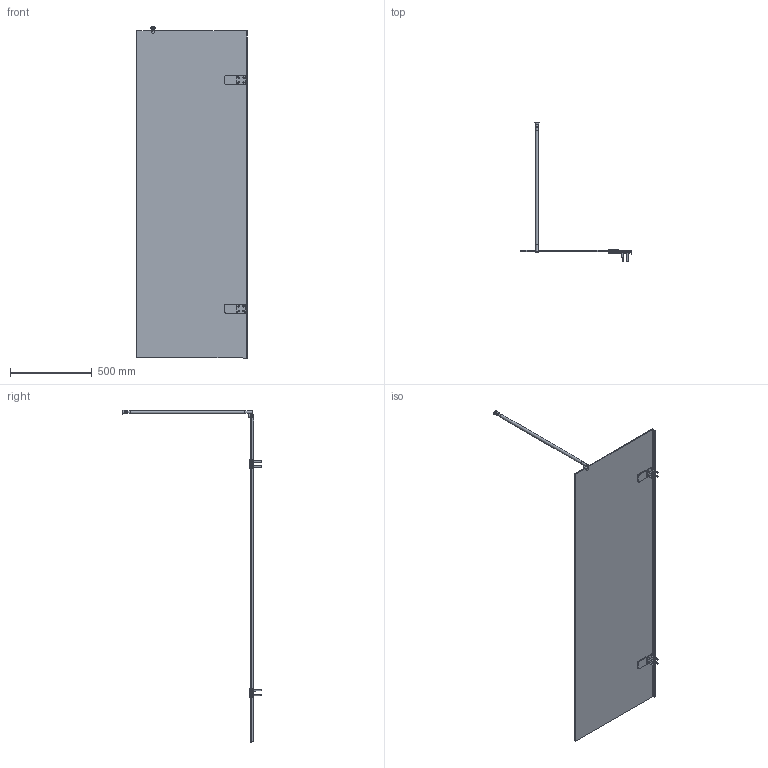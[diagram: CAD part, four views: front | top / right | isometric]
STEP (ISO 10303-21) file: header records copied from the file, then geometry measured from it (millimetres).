
FILE_DESCRIPTION(/* description */ (''),/* implementation_level */ '2;1');
FILE_NAME(/* name */ 'E:\Работа\Сергей\Душевые кабинки\! Работа\!! 33\! В работе\TREND DOOR GK-861NAITL-2722\TREND DOOR GK-861NAITL-2722 правая модель\TREND DOOR GK-861NAITL-2722 ПРАВАЯ-3D.stp',/* time_stamp */ '2017-10-16T18:11:57+03:00',/* author */ ('PC'),/* organization */ (''),/* preprocessor_version */ 'ST-DEVELOPER v15.2',/* originating_system */ 'Autodesk Inventor 2014',/* authorisation */ '');
FILE_SCHEMA (('AUTOMOTIVE_DESIGN { 1 0 10303 214 3 1 1 }'));
Length unit declared in the file: millimetre
Products named in the file (1): TREND DOOR GK-861NAITL-2722 \X2\041F0420041004120410042F
\X0\-3D
Bounding box: 677.36 x 852 x 2031.5 mm (x, y, z)
Volume: 8604516.5 mm3; surface area: 2917547.3 mm2
Topology: 3 solids, 3 shells, 165 faces, 399 edges, 262 vertices
Faces by surface type: plane 95, cylinder 41, cone 16, torus 6, sphere 6, bspline 1
Full cylindrical faces by diameter (mm): 15 x2, 20 x3, 26 x1
Entity records: 4880 total; most frequent: CARTESIAN_POINT 901, DIRECTION 804, ORIENTED_EDGE 718, EDGE_CURVE 359, AXIS2_PLACEMENT_3D 288, VERTEX_POINT 253, LINE 228, VECTOR 228
